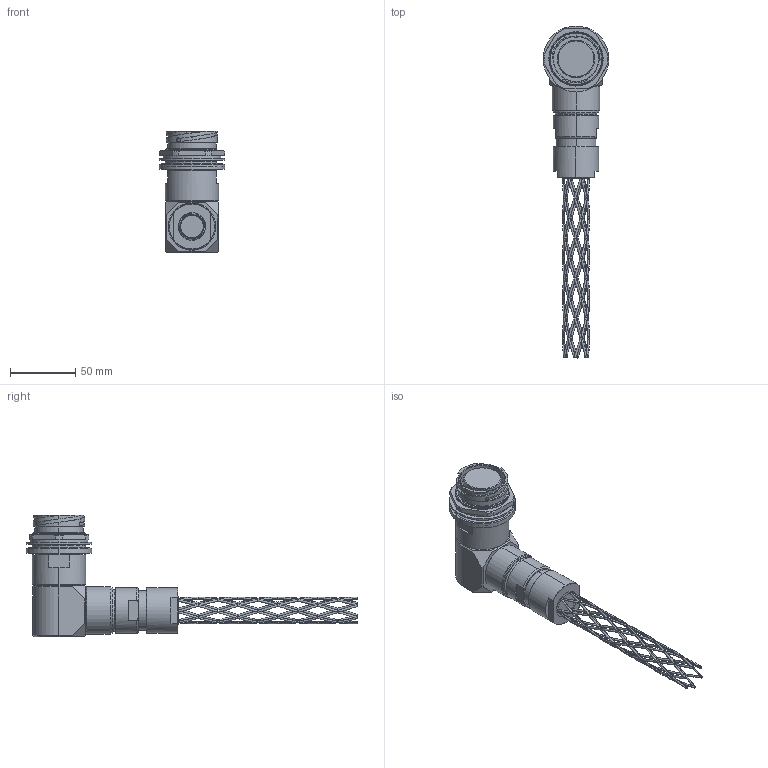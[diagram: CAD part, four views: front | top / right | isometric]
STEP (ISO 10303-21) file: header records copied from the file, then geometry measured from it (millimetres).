
FILE_DESCRIPTION (( 'STEP AP214' ), '1' );
FILE_NAME ('QLINK90-RJBX-23XX-GXXX-RA.STEP', '2025-12-17T15:53:49', ( '' ), ( '' ), 'SwSTEP 2.0', 'SolidWorks 2024', '' );
FILE_SCHEMA (( 'AUTOMOTIVE_DESIGN' ));
Length unit declared in the file: millimetre
Products named in the file (1): QLINK90-RJBX-23XX-GXXX-RA
Bounding box: 50.55 x 254.75 x 93.22 mm (x, y, z)
Volume: 193553.1 mm3; surface area: 45323.1 mm2
Topology: 2 solids, 4 shells, 538 faces, 1483 edges, 866 vertices
Faces by surface type: bspline 269, plane 95, cylinder 94, cone 57, torus 23
Entity records: 131648 total; most frequent: CARTESIAN_POINT 121034, ORIENTED_EDGE 2966, EDGE_CURVE 1483, DIRECTION 1477, VERTEX_POINT 866, AXIS2_PLACEMENT_3D 616, EDGE_LOOP 569, ADVANCED_FACE 538
